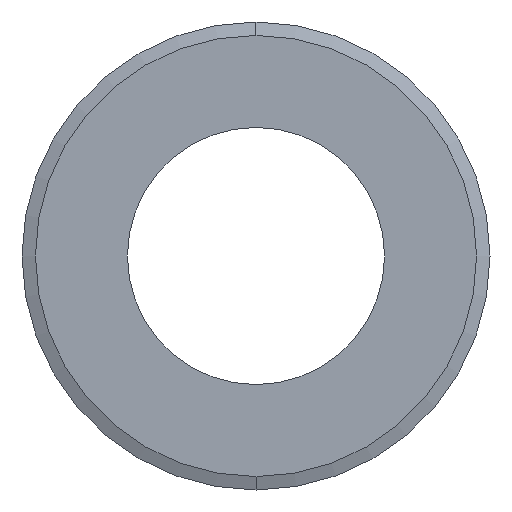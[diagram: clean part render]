
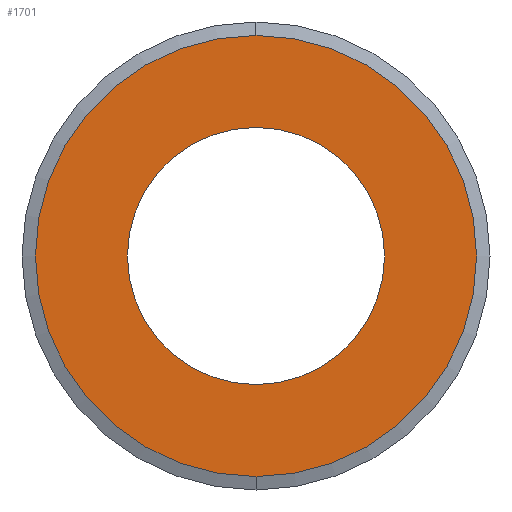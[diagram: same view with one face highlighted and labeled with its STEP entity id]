
A CAD part, left-side view. The second image highlights one B-rep face of the part: STEP entity #1701.
In plain terms, the highlighted planar face has unit normal (-1, 0, 0).
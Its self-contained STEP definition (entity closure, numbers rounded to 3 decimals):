
#25 = AXIS2_PLACEMENT_3D ( 'NONE', #1721, #396, #259 ) ;
#47 = EDGE_CURVE ( 'NONE', #1451, #361, #767, .T. ) ;
#174 = EDGE_LOOP ( 'NONE', ( #1633, #1274 ) ) ;
#248 = ORIENTED_EDGE ( 'NONE', *, *, #951, .T. ) ;
#259 = DIRECTION ( 'NONE',  ( 0., 0., -1. ) ) ;
#270 = CIRCLE ( 'NONE', #25, 23.9 ) ;
#302 = VERTEX_POINT ( 'NONE', #1016 ) ;
#361 = VERTEX_POINT ( 'NONE', #757 ) ;
#366 = EDGE_CURVE ( 'NONE', #361, #1451, #1248, .T. ) ;
#396 = DIRECTION ( 'NONE',  ( 1., 0., 0. ) ) ;
#528 = AXIS2_PLACEMENT_3D ( 'NONE', #1565, #1560, #1682 ) ;
#564 = FACE_OUTER_BOUND ( 'NONE', #174, .T. ) ;
#591 = ORIENTED_EDGE ( 'NONE', *, *, #1671, .T. ) ;
#649 = AXIS2_PLACEMENT_3D ( 'NONE', #795, #933, #1076 ) ;
#668 = PLANE ( 'NONE',  #649 ) ;
#730 = CARTESIAN_POINT ( 'NONE',  ( 0., 0., 41. ) ) ;
#757 = CARTESIAN_POINT ( 'NONE',  ( 0., 0., -41. ) ) ;
#760 = CARTESIAN_POINT ( 'NONE',  ( 0., 0., 23.9 ) ) ;
#767 = CIRCLE ( 'NONE', #946, 41. ) ;
#795 = CARTESIAN_POINT ( 'NONE',  ( 0., 0., 0. ) ) ;
#807 = CARTESIAN_POINT ( 'NONE',  ( 0., 0., 0. ) ) ;
#813 = DIRECTION ( 'NONE',  ( -1., 0., 0. ) ) ;
#817 = DIRECTION ( 'NONE',  ( 0., 0., 1. ) ) ;
#889 = CARTESIAN_POINT ( 'NONE',  ( 0., 0., 0. ) ) ;
#933 = DIRECTION ( 'NONE',  ( 1., 0., 0. ) ) ;
#946 = AXIS2_PLACEMENT_3D ( 'NONE', #807, #813, #817 ) ;
#951 = EDGE_CURVE ( 'NONE', #1467, #302, #1055, .T. ) ;
#969 = DIRECTION ( 'NONE',  ( -1., 0., 0. ) ) ;
#975 = DIRECTION ( 'NONE',  ( 0., 0., 1. ) ) ;
#982 = FACE_BOUND ( 'NONE', #1605, .T. ) ;
#1016 = CARTESIAN_POINT ( 'NONE',  ( 0., 0., -23.9 ) ) ;
#1055 = CIRCLE ( 'NONE', #528, 23.9 ) ;
#1076 = DIRECTION ( 'NONE',  ( 0., 0., -1. ) ) ;
#1248 = CIRCLE ( 'NONE', #1430, 41. ) ;
#1274 = ORIENTED_EDGE ( 'NONE', *, *, #366, .T. ) ;
#1430 = AXIS2_PLACEMENT_3D ( 'NONE', #889, #969, #975 ) ;
#1451 = VERTEX_POINT ( 'NONE', #730 ) ;
#1467 = VERTEX_POINT ( 'NONE', #760 ) ;
#1560 = DIRECTION ( 'NONE',  ( 1., 0., 0. ) ) ;
#1565 = CARTESIAN_POINT ( 'NONE',  ( 0., 0., 0. ) ) ;
#1605 = EDGE_LOOP ( 'NONE', ( #591, #248 ) ) ;
#1633 = ORIENTED_EDGE ( 'NONE', *, *, #47, .T. ) ;
#1671 = EDGE_CURVE ( 'NONE', #302, #1467, #270, .T. ) ;
#1682 = DIRECTION ( 'NONE',  ( 0., 0., -1. ) ) ;
#1701 = ADVANCED_FACE ( 'NONE', ( #982, #564 ), #668, .F. ) ;
#1721 = CARTESIAN_POINT ( 'NONE',  ( 0., 0., 0. ) ) ;
